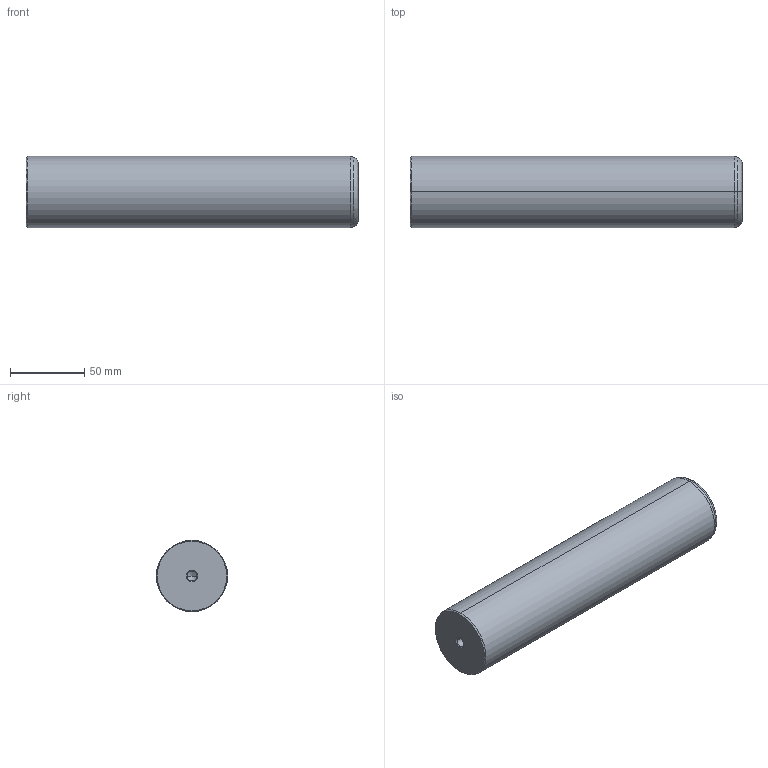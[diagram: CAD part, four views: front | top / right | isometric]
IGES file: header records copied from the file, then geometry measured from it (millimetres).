
Start section: START RECORD GO HERE.
Global section: file name: 720-48x224.igs; native system: DASSAULT SYSTEMES CATIA V5 R20 - www.3ds.com; preprocessor: CATIA Version 5 Release 20 ; author: Utente; organization: NB04-ASUS; date: 20201230.225139; units: millimetre
Bounding box: 224 x 48 x 48 mm (x, y, z)
Surface area: 38005.8 mm2 (no closed solid volume)
Topology: 0 solids, 0 shells, 22 faces, 108 edges, 104 vertices
Faces by surface type: revolution 20, plane 2
